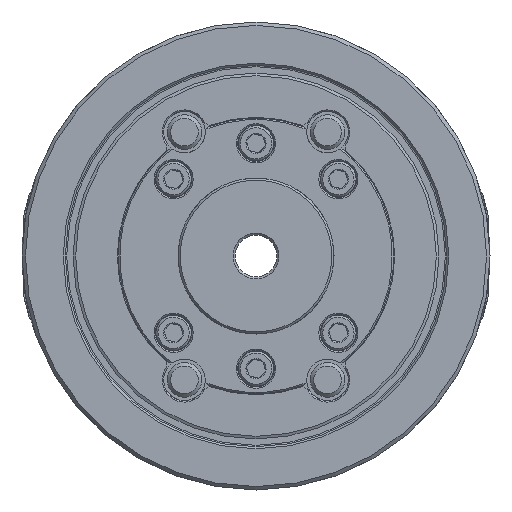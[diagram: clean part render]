
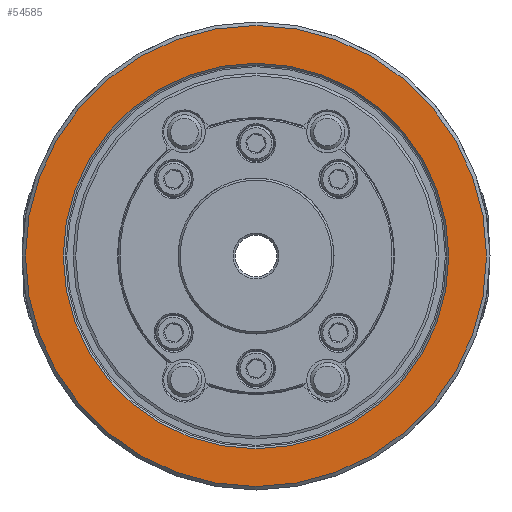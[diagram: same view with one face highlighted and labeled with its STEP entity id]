
A CAD part, left-side view. The second image highlights one B-rep face of the part: STEP entity #54585.
In plain terms, the highlighted planar face has unit normal (-1, 0, 0).
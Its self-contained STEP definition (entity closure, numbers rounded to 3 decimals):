
#3197 = AXIS2_PLACEMENT_3D ( 'NONE', #37287, #58428, #58059 ) ;
#4317 = CIRCLE ( 'NONE', #49555, 55.6 ) ;
#6991 = CARTESIAN_POINT ( 'NONE',  ( -60., 0., -66.5 ) ) ;
#7919 = EDGE_CURVE ( 'NONE', #54457, #54457, #4317, .T. ) ;
#8544 = DIRECTION ( 'NONE',  ( 0., 0., -1. ) ) ;
#11935 = CARTESIAN_POINT ( 'NONE',  ( -60., 0., -55.6 ) ) ;
#17321 = ORIENTED_EDGE ( 'NONE', *, *, #7919, .T. ) ;
#23209 = EDGE_LOOP ( 'NONE', ( #65868 ) ) ;
#29698 = AXIS2_PLACEMENT_3D ( 'NONE', #35603, #67471, #46336 ) ;
#33446 = CARTESIAN_POINT ( 'NONE',  ( -60., 0., 0. ) ) ;
#35603 = CARTESIAN_POINT ( 'NONE',  ( -60., 0., 0. ) ) ;
#36045 = EDGE_CURVE ( 'NONE', #48817, #48817, #36283, .T. ) ;
#36283 = CIRCLE ( 'NONE', #29698, 66.5 ) ;
#36948 = PLANE ( 'NONE',  #3197 ) ;
#37287 = CARTESIAN_POINT ( 'NONE',  ( -60., -55.6, 0. ) ) ;
#46336 = DIRECTION ( 'NONE',  ( 0., 0., -1. ) ) ;
#46341 = EDGE_LOOP ( 'NONE', ( #17321 ) ) ;
#48817 = VERTEX_POINT ( 'NONE', #6991 ) ;
#49555 = AXIS2_PLACEMENT_3D ( 'NONE', #33446, #50725, #8544 ) ;
#50725 = DIRECTION ( 'NONE',  ( 1., 0., 0. ) ) ;
#53559 = FACE_BOUND ( 'NONE', #46341, .T. ) ;
#54457 = VERTEX_POINT ( 'NONE', #11935 ) ;
#54585 = ADVANCED_FACE ( 'NONE', ( #63275, #53559 ), #36948, .F. ) ;
#58059 = DIRECTION ( 'NONE',  ( 0., 0., -1. ) ) ;
#58428 = DIRECTION ( 'NONE',  ( 1., 0., 0. ) ) ;
#63275 = FACE_OUTER_BOUND ( 'NONE', #23209, .T. ) ;
#65868 = ORIENTED_EDGE ( 'NONE', *, *, #36045, .F. ) ;
#67471 = DIRECTION ( 'NONE',  ( 1., 0., 0. ) ) ;
